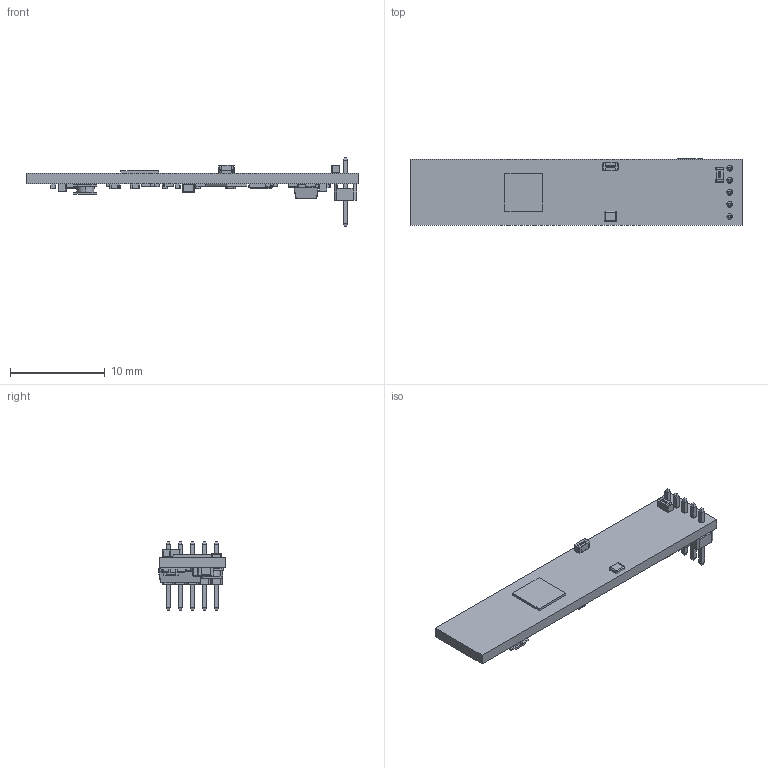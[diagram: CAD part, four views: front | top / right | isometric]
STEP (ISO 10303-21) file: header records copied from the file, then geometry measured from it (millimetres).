
FILE_DESCRIPTION(('Open CASCADE Model'),'2;1');
FILE_NAME('Open CASCADE Shape Model','2024-03-20T17:42:43',('Author'),( 'Open CASCADE'),'Open CASCADE STEP processor 6.8','Open CASCADE 6.8' ,'Unknown');
FILE_SCHEMA(('AUTOMOTIVE_DESIGN { 1 0 10303 214 1 1 1 1 }'));
Length unit declared in the file: millimetre
Products named in the file (76): PCB; Board; Open CASCADE STEP translator 6.8 1.1.1; U1; 5991666752; Extruded; D1; LED_0805; C2; C_0603; LOGO?; ANT1; 0603; Y2; OSC_2025-4; LOGO?0.15; Y1; U3; SOT89; LOGO?0.25; U2; 9791270208; R18; R0402; R17; R15; R0603; R14; R13; R12; R11; R10; R9; R8; R7; R6; R5; R4; R3; R2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
Assembly tree (106 placements, depth 5):
  PCB
    Board
      Open CASCADE STEP translator 6.8 1.1.1
    U1
      5991666752
        Extruded
    D1
      LED_0805
    C2
      C_0603
        LOGO?
        C_0603
    ANT1
      0603
        LOGO?
        0603
    Y2
      OSC_2025-4
        OSC_2025-4
        LOGO?0.15
    Y1
      OSC_2025-4
        OSC_2025-4
        LOGO?0.15
    U3
      SOT89
        SOT89
        LOGO?0.25
    U2
      9791270208
        Extruded
    R18
      R0402
    R17
      R0402
    R15
      R0603
    R14
      R0402
    R13
      R0402
    R12
      R0402
    R11
      R0402
    R10
      R0402
    R9
      R0402
    R8
      R0402
    R7
      R0402
    R6
      R0402
    R5
      R0402
    R4
      R0402
    R3
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Bounding box: 35 x 7.05 x 7.2 mm (x, y, z)
Volume: 348.1 mm3; surface area: 1090.3 mm2
Topology: 389 solids, 389 shells, 6243 faces, 15098 edges, 9816 vertices
Faces by surface type: plane 3460, bspline 1876, cylinder 754, sphere 120, torus 12, revolution 12, extrusion 9
Full cylindrical faces by diameter (mm): 0.6 x5
Entity records: 106583 total; most frequent: CARTESIAN_POINT 44376, ORIENTED_EDGE 11106, DIRECTION 8204, EDGE_CURVE 5553, VECTOR 3690, LINE 3681, VERTEX_POINT 3650, FACE_BOUND 2489
